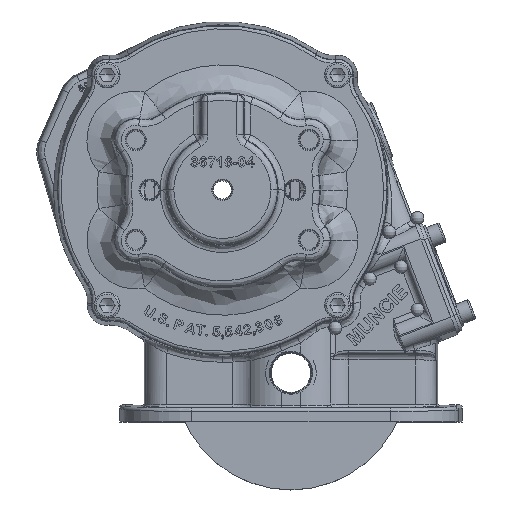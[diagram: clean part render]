
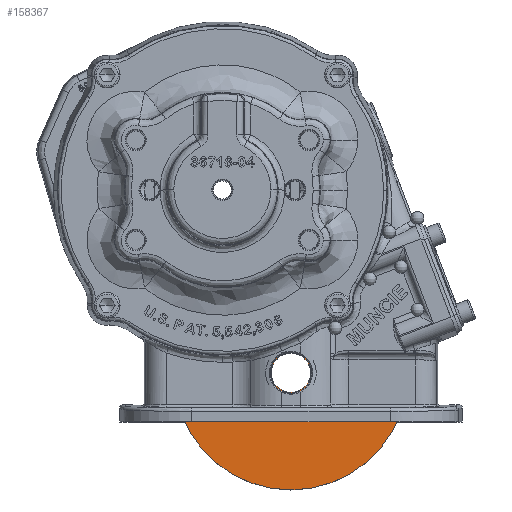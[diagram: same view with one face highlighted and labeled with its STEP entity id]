
A CAD part, top view. The second image highlights one B-rep face of the part: STEP entity #158367.
In plain terms, the highlighted planar face has unit normal (0, 0, 1).
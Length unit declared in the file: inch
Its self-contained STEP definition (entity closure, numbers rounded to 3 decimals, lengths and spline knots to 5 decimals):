
#19725 = CARTESIAN_POINT ( 'NONE',  ( 0.29733, -1.46446, 1.72234 ) ) ;
#19726 = DIRECTION ( 'NONE',  ( 0., 0., -1. ) ) ;
#19727 = DIRECTION ( 'NONE',  ( 0., 1., 0. ) ) ;
#19729 = CARTESIAN_POINT ( 'NONE',  ( 0.29733, -1.46446, 1.72234 ) ) ;
#19730 = DIRECTION ( 'NONE',  ( 0., 0., -1. ) ) ;
#19731 = DIRECTION ( 'NONE',  ( 0., 1., 0. ) ) ;
#32539 = VERTEX_POINT ( 'NONE', #77405 ) ;
#32542 = VERTEX_POINT ( 'NONE', #77407 ) ;
#32579 = VERTEX_POINT ( 'NONE', #77435 ) ;
#32584 = VERTEX_POINT ( 'NONE', #77437 ) ;
#41183 = CARTESIAN_POINT ( 'NONE',  ( 0.29733, -1.46446, 1.72234 ) ) ;
#41186 = DIRECTION ( 'NONE',  ( 0., 0., -1. ) ) ;
#41190 = DIRECTION ( 'NONE',  ( 0., 1., 0. ) ) ;
#41374 = CARTESIAN_POINT ( 'NONE',  ( 0.29733, -1.46446, 1.72234 ) ) ;
#41378 = DIRECTION ( 'NONE',  ( 0., 0., -1. ) ) ;
#41381 = DIRECTION ( 'NONE',  ( 0., 1., 0. ) ) ;
#60956 = CIRCLE ( 'NONE', #60972, 0.3595 ) ;
#60972 = AXIS2_PLACEMENT_3D ( 'NONE', #41183, #41186, #41190 ) ;
#61004 = CIRCLE ( 'NONE', #61011, 2.135 ) ;
#61011 = AXIS2_PLACEMENT_3D ( 'NONE', #41374, #41378, #41381 ) ;
#77405 = CARTESIAN_POINT ( 'NONE',  ( 0.29733, -3.59946, 1.72234 ) ) ;
#77407 = CARTESIAN_POINT ( 'NONE',  ( 0.29733, 0.67054, 1.72234 ) ) ;
#77435 = CARTESIAN_POINT ( 'NONE',  ( 0.29733, -1.82396, 1.72234 ) ) ;
#77437 = CARTESIAN_POINT ( 'NONE',  ( 0.29733, -1.10496, 1.72234 ) ) ;
#93657 = CIRCLE ( 'NONE', #93664, 2.135 ) ;
#93661 = CIRCLE ( 'NONE', #93667, 0.3595 ) ;
#93664 = AXIS2_PLACEMENT_3D ( 'NONE', #19725, #19726, #19727 ) ;
#93667 = AXIS2_PLACEMENT_3D ( 'NONE', #19729, #19730, #19731 ) ;
#114807 = EDGE_CURVE ( 'NONE', #32579, #32584, #60956, .T. ) ;
#114820 = EDGE_CURVE ( 'NONE', #32542, #32539, #61004, .T. ) ;
#121264 = AXIS2_PLACEMENT_3D ( 'NONE', #129571, #129623, #129626 ) ;
#129571 = CARTESIAN_POINT ( 'NONE',  ( 0.29733, -1.46446, 1.72234 ) ) ;
#129609 = FACE_BOUND ( 'NONE', #166319, .T. ) ;
#129614 = FACE_OUTER_BOUND ( 'NONE', #166325, .T. ) ;
#129617 = PLANE ( 'NONE',  #121264 ) ;
#129623 = DIRECTION ( 'NONE',  ( 0., 0., -1. ) ) ;
#129626 = DIRECTION ( 'NONE',  ( 0., 1., 0. ) ) ;
#133257 = EDGE_CURVE ( 'NONE', #32539, #32542, #93657, .T. ) ;
#133259 = EDGE_CURVE ( 'NONE', #32584, #32579, #93661, .T. ) ;
#149630 = ORIENTED_EDGE ( 'NONE', *, *, #133259, .T. ) ;
#149632 = ORIENTED_EDGE ( 'NONE', *, *, #114807, .T. ) ;
#149634 = ORIENTED_EDGE ( 'NONE', *, *, #133257, .F. ) ;
#149636 = ORIENTED_EDGE ( 'NONE', *, *, #114820, .F. ) ;
#158367 = ADVANCED_FACE ( 'NONE', ( #129609, #129614 ), #129617, .F. ) ;
#166319 = EDGE_LOOP ( 'NONE', ( #149630, #149632 ) ) ;
#166325 = EDGE_LOOP ( 'NONE', ( #149634, #149636 ) ) ;
